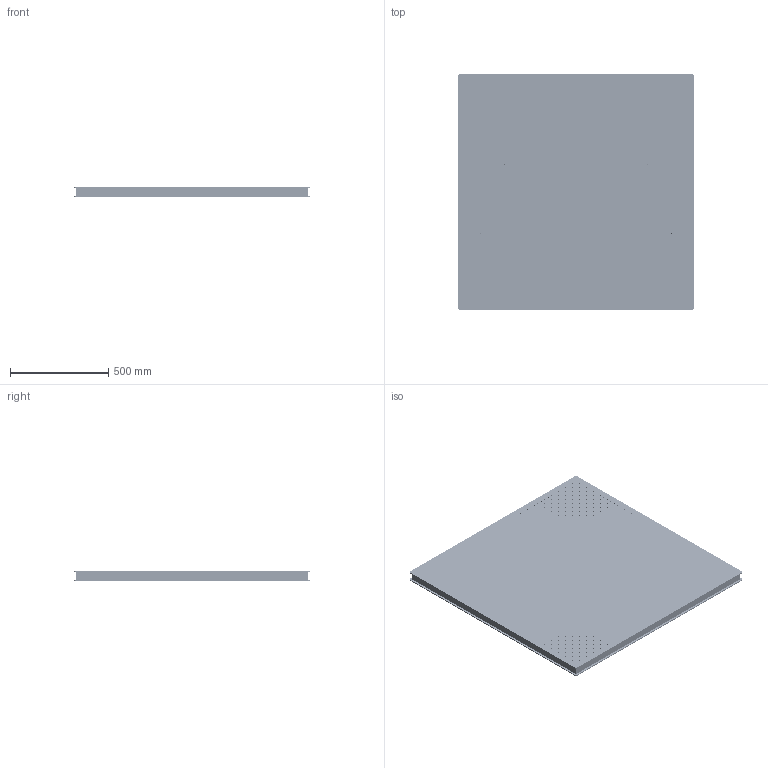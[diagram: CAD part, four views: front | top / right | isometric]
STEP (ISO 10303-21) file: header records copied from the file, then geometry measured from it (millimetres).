
FILE_DESCRIPTION (( 'STEP AP203' ), '1' );
FILE_NAME ('NTBB1212-50 怢醱.STEP', '2025-04-21T06:43:47', ( '' ), ( '' ), 'SwSTEP 2.0', 'SolidWorks 2021', '' );
FILE_SCHEMA (( 'CONFIG_CONTROL_DESIGN' ));
Products named in the file (1): NTBB1212-50 怢醱
Bounding box: 1200 x 1200 x 50 mm (x, y, z)
Surface area: 6126196.1 mm2 (no closed solid volume)
Topology: 0 solids, 30 shells, 4282 faces, 13094 edges, 8844 vertices
Faces by surface type: cylinder 4228, plane 54
Entity records: 160288 total; most frequent: DIRECTION 30148, CARTESIAN_POINT 26221, ORIENTED_EDGE 25808, EDGE_CURVE 13094, AXIS2_PLACEMENT_3D 12771, VERTEX_POINT 8844, EDGE_LOOP 8514, CIRCLE 8488
